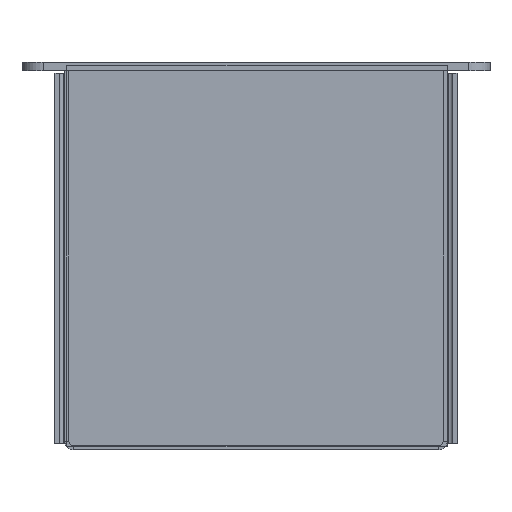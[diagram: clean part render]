
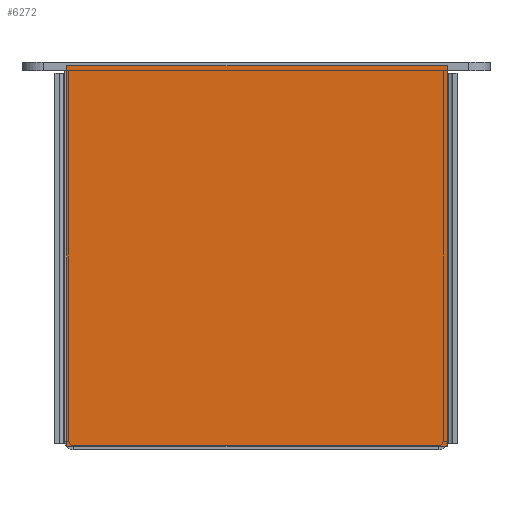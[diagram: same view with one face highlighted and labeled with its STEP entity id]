
A CAD part, front view. The second image highlights one B-rep face of the part: STEP entity #6272.
In plain terms, the highlighted planar face has unit normal (0, -1, 0) as drawn and (0, 0, -1) by its records, which use the part's own axes.
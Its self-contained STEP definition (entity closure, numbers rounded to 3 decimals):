
#361 = LINE ( 'NONE', #965, #3268 ) ;
#377 = CARTESIAN_POINT ( 'NONE',  ( 44.75, -44.75, -1. ) ) ;
#605 = VECTOR ( 'NONE', #1288, 1000. ) ;
#789 = AXIS2_PLACEMENT_3D ( 'NONE', #4035, #1198, #1270 ) ;
#965 = CARTESIAN_POINT ( 'NONE',  ( -44.75, -44.75, -1. ) ) ;
#1198 = DIRECTION ( 'NONE',  ( 0., 0., 1. ) ) ;
#1270 = DIRECTION ( 'NONE',  ( 1., 0., 0. ) ) ;
#1288 = DIRECTION ( 'NONE',  ( 1., 0., 0. ) ) ;
#1457 = CARTESIAN_POINT ( 'NONE',  ( 44.75, 44.75, -1. ) ) ;
#1617 = VERTEX_POINT ( 'NONE', #6619 ) ;
#1720 = EDGE_LOOP ( 'NONE', ( #2046, #3157, #4328, #2899 ) ) ;
#1889 = LINE ( 'NONE', #6494, #605 ) ;
#1908 = PLANE ( 'NONE',  #789 ) ;
#2046 = ORIENTED_EDGE ( 'NONE', *, *, #4941, .F. ) ;
#2451 = VERTEX_POINT ( 'NONE', #3853 ) ;
#2556 = EDGE_CURVE ( 'NONE', #4029, #2451, #5293, .T. ) ;
#2648 = DIRECTION ( 'NONE',  ( 0., -1., 0. ) ) ;
#2899 = ORIENTED_EDGE ( 'NONE', *, *, #3239, .F. ) ;
#2951 = CARTESIAN_POINT ( 'NONE',  ( 44.75, -44.75, -1. ) ) ;
#3157 = ORIENTED_EDGE ( 'NONE', *, *, #2556, .F. ) ;
#3239 = EDGE_CURVE ( 'NONE', #1617, #5550, #1889, .T. ) ;
#3268 = VECTOR ( 'NONE', #2648, 1000. ) ;
#3503 = DIRECTION ( 'NONE',  ( 0., 1., 0. ) ) ;
#3853 = CARTESIAN_POINT ( 'NONE',  ( -44.75, 44.75, -1. ) ) ;
#4029 = VERTEX_POINT ( 'NONE', #1457 ) ;
#4035 = CARTESIAN_POINT ( 'NONE',  ( 0., 0., -1. ) ) ;
#4143 = DIRECTION ( 'NONE',  ( -1., 0., 0. ) ) ;
#4328 = ORIENTED_EDGE ( 'NONE', *, *, #7049, .F. ) ;
#4941 = EDGE_CURVE ( 'NONE', #2451, #1617, #361, .T. ) ;
#5067 = LINE ( 'NONE', #2951, #5510 ) ;
#5293 = LINE ( 'NONE', #6925, #5304 ) ;
#5304 = VECTOR ( 'NONE', #4143, 1000. ) ;
#5510 = VECTOR ( 'NONE', #3503, 1000. ) ;
#5550 = VERTEX_POINT ( 'NONE', #377 ) ;
#6272 = ADVANCED_FACE ( 'NONE', ( #7036 ), #1908, .F. ) ;
#6494 = CARTESIAN_POINT ( 'NONE',  ( 44.75, -44.75, -1. ) ) ;
#6619 = CARTESIAN_POINT ( 'NONE',  ( -44.75, -44.75, -1. ) ) ;
#6925 = CARTESIAN_POINT ( 'NONE',  ( 44.75, 44.75, -1. ) ) ;
#7036 = FACE_OUTER_BOUND ( 'NONE', #1720, .T. ) ;
#7049 = EDGE_CURVE ( 'NONE', #5550, #4029, #5067, .T. ) ;
